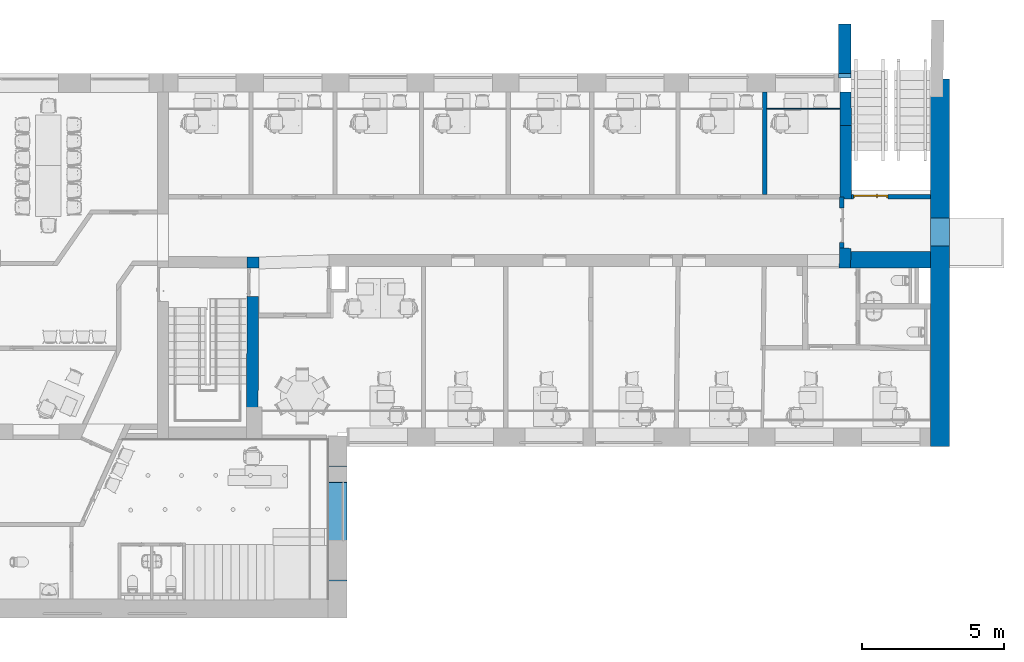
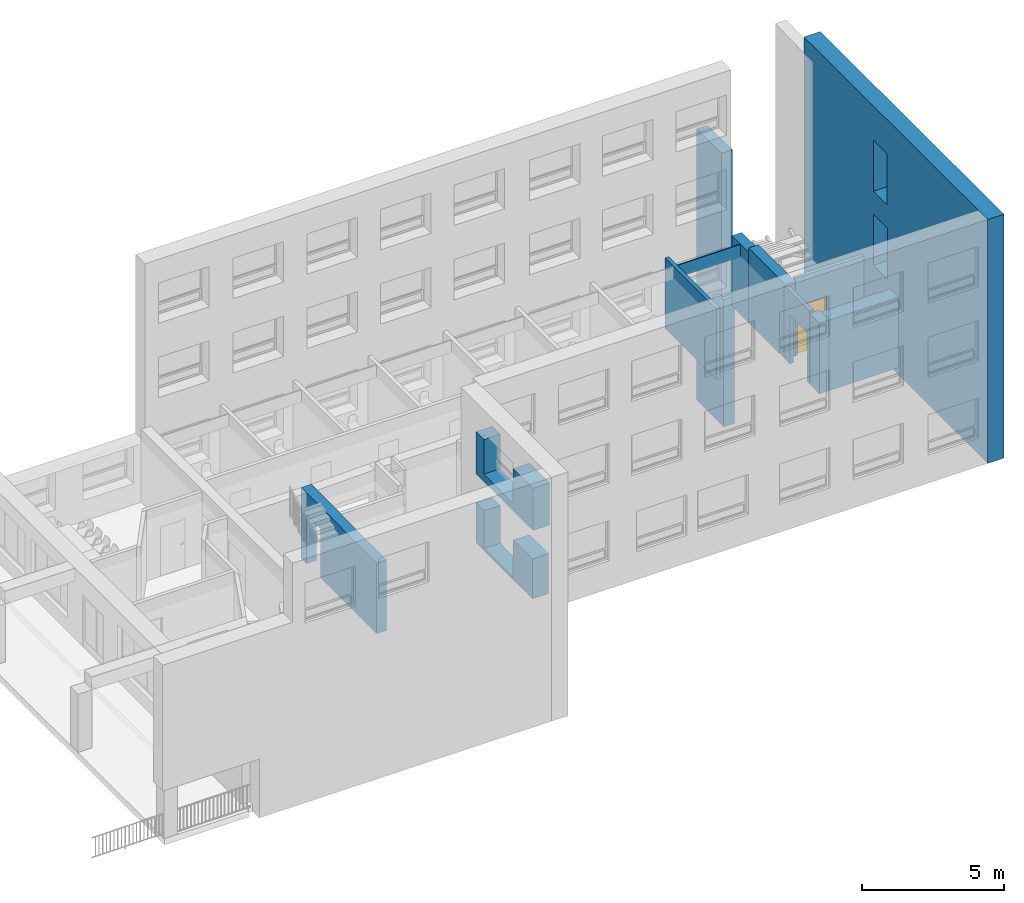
# One storey, part 12 of 25: 13 walls, 1 door, 6 openings.
"""IFC2X3 building model written with IfcOpenShell, lengths in millimetres."""

from ifc_helpers import new_model, entity, si_unit, converted_unit, derived_unit, direction, frame, frame_2d, origin, origin_2d_with_axis, place, context, subcontext, project, spatial, polyline, rectangle, outline, extrude, clip, bounded_halfspace, faceted_brep, source, transform, mapped, material, material_list, layer, layer_set, layer_usage, type_object, type_shapes, element, fill, save


model = new_model("IFC2X3")

# Units and contexts
model_context = context("Model", 3, precision=0.01, world=origin(), true_north=direction((6.12303176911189e-17, 1.0)))
context_of_model = context(None, 3, precision=0.01, world=origin(), true_north=direction((6.12303176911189e-17, 1.0)))
body_context = subcontext(model_context, "Body", "Model", "MODEL_VIEW")
ifc_project = project(units=[si_unit("LENGTHUNIT", "METRE", prefix="MILLI"), si_unit("AREAUNIT", "SQUARE_METRE"), si_unit("VOLUMEUNIT", "CUBIC_METRE"), converted_unit("PLANEANGLEUNIT", "DEGREE", entity("IfcRatioMeasure", 0.0174532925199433), si_unit("PLANEANGLEUNIT", "RADIAN"), dimensions=[0, 0, 0, 0, 0, 0, 0]), si_unit("MASSUNIT", "GRAM", prefix="KILO"), derived_unit("MASSDENSITYUNIT", [(si_unit("MASSUNIT", "GRAM", prefix="KILO"), 1), (si_unit("LENGTHUNIT", "METRE"), -3)]), si_unit("TIMEUNIT", "SECOND"), si_unit("FREQUENCYUNIT", "HERTZ"), si_unit("THERMODYNAMICTEMPERATUREUNIT", "DEGREE_CELSIUS"), derived_unit("THERMALTRANSMITTANCEUNIT", [(si_unit("MASSUNIT", "GRAM", prefix="KILO"), 1), (si_unit("THERMODYNAMICTEMPERATUREUNIT", "KELVIN"), -1), (si_unit("TIMEUNIT", "SECOND"), -3)]), derived_unit("VOLUMETRICFLOWRATEUNIT", [(si_unit("LENGTHUNIT", "METRE"), 3), (si_unit("TIMEUNIT", "SECOND"), -1)]), si_unit("ELECTRICCURRENTUNIT", "AMPERE"), si_unit("ELECTRICVOLTAGEUNIT", "VOLT"), si_unit("POWERUNIT", "WATT"), si_unit("FORCEUNIT", "NEWTON", prefix="KILO"), si_unit("ILLUMINANCEUNIT", "LUX"), si_unit("LUMINOUSFLUXUNIT", "LUMEN"), si_unit("LUMINOUSINTENSITYUNIT", "CANDELA"), derived_unit("USERDEFINED", [(si_unit("MASSUNIT", "GRAM", prefix="KILO"), -1), (si_unit("LENGTHUNIT", "METRE"), -2), (si_unit("TIMEUNIT", "SECOND"), 3), (si_unit("LUMINOUSFLUXUNIT", "LUMEN"), 1)]), derived_unit("LINEARVELOCITYUNIT", [(si_unit("LENGTHUNIT", "METRE"), 1), (si_unit("TIMEUNIT", "SECOND"), -1)]), si_unit("PRESSUREUNIT", "PASCAL"), derived_unit("USERDEFINED", [(si_unit("LENGTHUNIT", "METRE"), -2), (si_unit("MASSUNIT", "GRAM", prefix="KILO"), 1), (si_unit("TIMEUNIT", "SECOND"), -2)])], contexts=[model_context, context_of_model])

# Site, building, storey
site_placement = place(None, frame((121442.264707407, 135347.995453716, -1800.0)))
site = spatial("IfcSite", under=ifc_project, at=site_placement, Name="Surface", CompositionType="ELEMENT")
building_placement = place(site_placement, origin())
building = spatial("IfcBuilding", under=site, at=building_placement, CompositionType="ELEMENT")
storey_placement = place(building_placement, frame((0.0, 0.0, 1800.0)))
storey = spatial("IfcBuildingStorey", under=building, at=storey_placement, Name="1 korrus", CompositionType="ELEMENT", Elevation=1800.00000000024)

# Walls
ifc_material_1 = material(Name="__Betoonelement")
ifc_layer_1 = layer(ifc_material_1, 400.0)
ifc_layer_set_1 = layer_set([ifc_layer_1], Name="Basic Wall:40_Betoon")
ifc_layer_usage_1 = layer_usage(ifc_layer_set_1, "AXIS2", "NEGATIVE", 200.0)
wall_type_1 = type_object("IfcWallType", Name="Basic Wall:40_Betoon", PredefinedType="STANDARD", material=ifc_layer_set_1)
wall_1_placement = place(storey_placement, frame((-85515.1968335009, -115341.075780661, 0.0), z_axis=(0.0, 0.0, 1.0), x_axis=(0.00421665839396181, -0.999991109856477, 0.0)))
element("IfcWallStandardCase", 1, at=wall_1_placement, inside=storey, type_object=wall_type_1, material=ifc_layer_usage_1, Name="Basic Wall:40_Betoon", ObjectType="Basic Wall:40_Betoon", context=body_context, shape_type="SweptSolid", body=[
    extrude(outline(polyline([(-179.426045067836, -1817.21276640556), (220.599622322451, -1817.21276640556), (179.409931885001, 1818.63509030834), (-220.583509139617, 1815.79044250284), (-179.426045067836, -1817.21276640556)])), frame((1818.17271335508, 0.0, 0.0), z_axis=(0.0, 0.0, 1.0), x_axis=(0.0113280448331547, 0.999935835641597, 0.0)), (0.0, 0.0, 1.0), 3032.0),
])
ifc_layer_usage_2 = layer_usage(ifc_layer_set_1, "AXIS2", "POSITIVE", -200.0)
wall_2_placement = place(storey_placement, frame((-85539.9594272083, -121530.565417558, 0.0), z_axis=(0.0, 0.0, 1.0), x_axis=(0.0323274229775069, 0.999477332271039, 0.0)))
element("IfcWallStandardCase", 2, at=wall_2_placement, inside=storey, type_object=wall_type_1, material=ifc_layer_usage_2, Name="Basic Wall:40_Betoon", ObjectType="Basic Wall:40_Betoon", context=body_context, shape_type="Clipping", body=[
    clip(extrude(outline(polyline([(708.579685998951, -200.0), (708.579685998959, 200.0), (0.0, 200.0), (12.937731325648, -200.0), (603.246266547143, -200.0), (708.579685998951, -200.0)])), origin(), (0.0, 0.0, 1.0), 3032.0), bounded_halfspace(frame((12.9377313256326, -200.0, 3032.0), z_axis=(0.0, 0.0, -1.0), x_axis=(-0.999477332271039, -0.0323274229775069, 0.0)), True, frame((12.9377313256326, -200.0, 3032.0)), polyline([(0.0, 0.0), (695.641954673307, 0.0), (695.641954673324, 400.0), (-12.9377313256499, 400.0), (0.0, 0.0)]))),
])
ifc_layer_usage_3 = layer_usage(ifc_layer_set_1, "AXIS2", "NEGATIVE", 200.0)
wall_3_placement = place(storey_placement, frame((-85510.2749043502, -116508.323618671, 0.0), z_axis=(0.0, 0.0, 1.0), x_axis=(0.0, -1.0, 0.0)))
element("IfcWallStandardCase", 3, at=wall_3_placement, inside=storey, type_object=wall_type_1, material=ifc_layer_usage_3, Name="Basic Wall:40_Betoon", ObjectType="Basic Wall:40_Betoon", context=body_context, shape_type="SweptSolid", body=[
    extrude(rectangle(XDim=2586.44494586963, YDim=400.000000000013, at=frame_2d((1293.22247293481, 0.0), x_axis=(-1.0, 0.0))), origin(), (0.0, 0.0, 1.0), 3215.0),
])
ifc_material_2 = material(Name="NCS S 2570-R Syvä punainen, matta, ruisku")
ifc_material_list = material_list([ifc_material_2, ifc_material_1])
wall_type_2 = type_object("IfcWallType", Name="Basic Wall:44_Betoon", PredefinedType="NOTDEFINED")
wall_4_placement = place(storey_placement, frame((-85538.0641696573, -114839.161413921, -5460.57195566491), z_axis=(0.0, 0.0, 1.0), x_axis=(0.0, 1.0, 0.0)))
element("IfcWall", 4, at=wall_4_placement, inside=storey, type_object=wall_type_2, material=ifc_material_list, Name="Basic Wall:44_Betoon", ObjectType="Basic Wall:44_Betoon", context=body_context, shape_type="Brep", body=[
    faceted_brep([(0.0, -220.500000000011, 5460.57195566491), (0.0, -220.500000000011, 0.0), (1891.50825939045, -220.500000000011, 0.0), (1891.50825939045, -220.500000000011, 11640.6280282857), (157.24230158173, -220.500000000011, 11640.6280282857), (157.24230158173, -220.500000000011, 8492.57195566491), (157.24230158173, -220.500000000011, 5460.57195566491), (0.0, 220.499999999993, 0.0), (0.0, 220.499999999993, 5460.57195566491), (157.24230158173, 220.499999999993, 5460.57195566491), (157.24230158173, 220.499999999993, 11640.6280282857), (1896.23794541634, 220.499999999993, 11640.6280282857), (1896.23794541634, 220.499999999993, 2170.57195566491), (1896.23794541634, 220.499999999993, 0.0), (157.24230158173, -220.08965099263, 5460.57195566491), (157.24230158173, 205.913091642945, 5460.57195566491), (0.0, 205.913091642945, 5460.57195566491), (0.0, -184.086908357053, 5460.57195566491)], [[[0, 1, 2, 3, 4, 5, 6]], [[7, 8, 9, 10, 11, 12, 13]], [[2, 1, 7, 13]], [[4, 3, 11, 10]], [[2, 13, 12, 11, 3]], [[6, 14, 15, 9, 8, 16, 17, 0]], [[0, 17, 16, 8, 7, 1]], [[4, 10, 9, 15, 14, 6, 5]]]),
])
ifc_layer_2 = layer(ifc_material_1, 590.0)
ifc_layer_set_2 = layer_set([ifc_layer_2], Name="Basic Wall:59_Betoon 2")
ifc_layer_usage_4 = layer_usage(ifc_layer_set_2, "AXIS2", "POSITIVE", -295.0)
wall_type_3 = type_object("IfcWallType", Name="Basic Wall:59_Betoon 2", PredefinedType="STANDARD", material=ifc_layer_set_2)
wall_5_placement = place(storey_placement, frame((-82525.9803800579, -121229.099932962, 0.0), z_axis=(0.0, 0.0, 1.0), x_axis=(-1.0, 0.0, 0.0)))
element("IfcWallStandardCase", 5, at=wall_5_placement, inside=storey, type_object=wall_type_3, material=ifc_layer_usage_4, Name="Basic Wall:59_Betoon 2", ObjectType="Basic Wall:59_Betoon 2", context=body_context, shape_type="SweptSolid", body=[
    extrude(outline(polyline([(2794.58218347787, -295.0), (2813.6653371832, 295.0), (0.0, 295.0), (0.0, -295.0), (2794.58218347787, -295.0)])), origin(), (0.0, 0.0, 1.0), 3025.0),
])

# Wall, opening
ifc_layer_3 = layer(ifc_material_1, 410.0)
ifc_layer_set_3 = layer_set([ifc_layer_3], Name="Basic Wall:41_Betoon 2")
wall_type_4 = type_object("IfcWallType", Name="Basic Wall:41_Betoon 2", PredefinedType="STANDARD", material=ifc_layer_set_3)
wall_6_placement = place(storey_placement, frame((-106355.901559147, -126468.408114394, 0.0), z_axis=(0.0, 0.0, 1.0), x_axis=(0.00458720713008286, 0.999989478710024, 0.0)))
wall_6 = element("IfcWall", 6, at=wall_6_placement, inside=storey, type_object=wall_type_4, Name="Basic Wall:41_Betoon 2", ObjectType="Basic Wall:41_Betoon 2", context=body_context, shape_type="Brep", body=[
    faceted_brep([(0.0, -205.0, 3032.0), (0.0, -205.0, 0.0), (3954.58771050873, -205.0, 0.0), (3954.58771050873, -205.0, 2100.0), (4954.58771050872, -205.0, 2100.0), (4954.58771050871, -205.0, 0.0), (5336.07504407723, -205.0, 0.0), (5336.07504407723, -205.0, 3032.0), (0.0, 205.0, 3032.0), (4946.47448263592, 205.0, 3032.0), (5336.47466789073, 205.0, 3032.0), (5336.47466789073, 205.0, 0.0), (4954.58771050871, 205.0, 0.0), (4954.58771050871, 205.0, 2100.0), (3954.58771050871, 205.0, 2100.0), (3954.58771050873, 205.0, 0.0), (0.0, 205.0, 0.0), (0.0, 101.88665501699, 3032.0), (3863.98745761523, 50.0597495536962, 3032.0), (5336.30440070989, 30.3118513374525, 3032.0)], [[[0, 1, 2, 3, 4, 5, 6, 7]], [[8, 9, 10, 11, 12, 13, 14, 15, 16]], [[1, 16, 15, 2]], [[1, 0, 17, 8, 16]], [[10, 9, 8, 17, 18, 19]], [[6, 11, 10, 19, 7]], [[4, 13, 12, 5]], [[13, 4, 3, 14]], [[14, 3, 2, 15]], [[17, 0, 7, 19, 18]], [[11, 6, 5, 12]]]),
])
opening_1_placement = place(wall_6_placement, frame((3954.58771050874, -205.0, 0.0)))
element("IfcOpeningElement", 7, at=opening_1_placement, cuts=wall_6, Name="sma_D01:1000 x 2100mm SU-9 Tuletokke:1", ObjectType="Opening", context=body_context, shape_type="SweptSolid", body=[
    extrude(rectangle(XDim=2099.99999999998, YDim=1000.0, at=frame_2d((1049.99999999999, 500.0), x_axis=(1.0, 0.0))), frame((0.0, 0.0, 0.0), z_axis=(0.0, 1.0, 0.0), x_axis=(0.0, 0.0, 1.0)), (0.0, 0.0, 1.0), 410.0),
])

# Wall, openings
ifc_material_3 = material(Name="Plaster")
ifc_layer_4 = layer(ifc_material_3, 10.0)
ifc_material_4 = material(Name="Polystyrene")
ifc_layer_5 = layer(ifc_material_4, 150.0)
ifc_layer_6 = layer(ifc_material_1, 500.0)
ifc_layer_set_4 = layer_set([ifc_layer_4, ifc_layer_5, ifc_layer_6], Name="Basic Wall:Olemasolev Soojustatud Välissein")
ifc_layer_usage_5 = layer_usage(ifc_layer_set_4, "AXIS2", "NEGATIVE", 330.0)
wall_type_5 = type_object("IfcWallType", Name="Basic Wall:Olemasolev Soojustatud Välissein", PredefinedType="STANDARD", material=ifc_layer_set_4)
wall_7_placement = place(storey_placement, frame((-82195.9803800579, -114877.270311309, -304.96246786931), z_axis=(0.0, 0.0, 1.0), x_axis=(0.0, -1.0, 0.0)))
wall_7 = element("IfcWallStandardCase", 8, at=wall_7_placement, inside=storey, type_object=wall_type_5, material=ifc_layer_usage_5, Name="Basic Wall:Olemasolev Soojustatud Välissein", ObjectType="Basic Wall:Olemasolev Soojustatud Välissein", context=body_context, shape_type="SweptSolid", body=[
    extrude(rectangle(XDim=12918.710704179, YDim=659.999999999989, at=frame_2d((6459.35535208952, 4.83169060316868e-13), x_axis=(-1.0, 0.0))), origin(), (0.0, 0.0, 1.0), 10464.9624678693),
])
opening_2_placement = place(wall_7_placement, origin())
element("IfcOpeningElement", 9, at=opening_2_placement, cuts=wall_7, Name="Basic Wall:Olemasolev Soojustatud Välissein", ObjectType="Opening", context=body_context, shape_type="SweptSolid", body=[
    extrude(rectangle(XDim=2200.0, YDim=970.000000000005, at=frame_2d((0.0, 8.66862137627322e-12), x_axis=(1.0, 0.0))), frame((5363.01915756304, -330.0, 7904.96246786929), z_axis=(0.0, 1.0, 0.0), x_axis=(0.0, 0.0, -1.0)), (0.0, 0.0, 1.0), 659.999999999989),
])
opening_3_placement = place(wall_7_placement, origin())
element("IfcOpeningElement", 10, at=opening_3_placement, cuts=wall_7, Name="Basic Wall:Olemasolev Soojustatud Välissein", ObjectType="Opening", context=body_context, shape_type="SweptSolid", body=[
    extrude(rectangle(XDim=2200.0, YDim=999.116235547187, at=origin_2d_with_axis()), frame((5377.57727533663, -330.0, 4729.96246786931), z_axis=(0.0, 1.0, 0.0), x_axis=(0.0, 0.0, -1.0)), (0.0, 0.0, 1.0), 659.999999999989),
])
opening_4_placement = place(wall_7_placement, origin())
element("IfcOpeningElement", 11, at=opening_4_placement, cuts=wall_7, Name="Basic Wall:Olemasolev Soojustatud Välissein", ObjectType="Opening", context=body_context, shape_type="SweptSolid", body=[
    extrude(rectangle(XDim=2200.0, YDim=1000.00000000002, at=frame_2d((-2.27373675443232e-13, 1.73372427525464e-11), x_axis=(1.0, 0.0))), frame((5377.83051468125, -330.0, 1404.96246786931), z_axis=(0.0, 1.0, 0.0), x_axis=(0.0, 0.0, -1.0)), (0.0, 0.0, 1.0), 659.999999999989),
])

# Walls
wall_8_placement = place(storey_placement, frame((-103360.469884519, -128477.780928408, 4125.0), z_axis=(0.0, 0.0, 1.0), x_axis=(0.0, -1.0, 0.0)))
element("IfcWall", 12, at=wall_8_placement, inside=storey, type_object=wall_type_5, Name="Basic Wall:Olemasolev Soojustatud Välissein", ObjectType="Basic Wall:Olemasolev Soojustatud Välissein", context=body_context, shape_type="Brep", body=[
    faceted_brep([(2628.20008707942, -330.0, 100.0), (578.200087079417, -330.0, 100.0), (578.200087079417, -330.0, 1710.0), (0.0, -330.0, 1710.0), (0.0, -330.0, 0.0), (3980.0, -330.0, 0.0), (3980.0, -330.0, 1710.0), (2628.20008707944, -330.0, 1710.0), (578.200087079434, 330.0, 100.0), (2628.20008707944, 330.0, 100.0), (2628.20008707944, 330.0, 1710.0), (3980.0, 330.0, 1710.0), (3980.0, 330.0, 0.0), (0.0, 330.0, 0.0), (0.0, 330.0, 1710.0), (578.200087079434, 330.0, 1710.0)], [[[0, 1, 2, 3, 4, 5, 6, 7]], [[8, 9, 10, 11, 12, 13, 14, 15]], [[13, 4, 3, 14]], [[14, 3, 2, 15]], [[11, 6, 5, 12]], [[4, 13, 12, 5]], [[1, 8, 15, 2]], [[9, 0, 7, 10]], [[1, 0, 9, 8]], [[6, 11, 10, 7]]]),
])
ifc_layer_7 = layer(ifc_material_3, 10.0)
ifc_material_5 = material(Name="EST. Müüritis. Väikeplokk. Kergkruusplokk")
ifc_layer_8 = layer(ifc_material_5, 130.0)
ifc_layer_9 = layer(ifc_material_3, 10.0)
ifc_layer_set_5 = layer_set([ifc_layer_7, ifc_layer_8, ifc_layer_9], Name="Basic Wall:15_FIBO")
ifc_layer_usage_6 = layer_usage(ifc_layer_set_5, "AXIS2", "POSITIVE", -75.0)
wall_type_6 = type_object("IfcWallType", Name="Basic Wall:15_FIBO", PredefinedType="STANDARD", material=ifc_layer_set_5)
wall_9_placement = place(storey_placement, frame((-88353.9992997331, -118944.76856454, 0.0), z_axis=(0.0, 0.0, 1.0), x_axis=(0.0, 1.0, 0.0)))
element("IfcWallStandardCase", 13, at=wall_9_placement, inside=storey, type_object=wall_type_6, material=ifc_layer_usage_6, Name="Basic Wall:15_FIBO", ObjectType="Basic Wall:15_FIBO", context=body_context, shape_type="Clipping", body=[
    clip(extrude(rectangle(XDim=3602.84945220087, YDim=150.000000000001, at=frame_2d((1801.42472610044, 0.0), x_axis=(-1.0, 0.0))), origin(), (0.0, 0.0, 1.0), 3032.0), bounded_halfspace(frame((0.0, -75.0, 3032.0), z_axis=(0.0, 0.0, -1.0), x_axis=(-1.0, 0.0, 0.0)), True, frame((0.0, -75.0, 3032.0)), polyline([(0.0, 0.0), (3602.84945220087, 0.0), (3602.84945220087, 150.0), (0.0, 150.0), (0.0, 0.0)]))),
])

# Wall, opening
ifc_layer_usage_7 = layer_usage(ifc_layer_set_5, "AXIS2", "NEGATIVE", 75.0)
wall_10_placement = place(storey_placement, frame((-85642.9141673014, -120816.168963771, 0.0), z_axis=(0.0, 0.0, 1.0), x_axis=(0.0, 1.0, 0.0)))
wall_10 = element("IfcWallStandardCase", 14, at=wall_10_placement, inside=storey, type_object=wall_type_6, material=ifc_layer_usage_7, Name="Basic Wall:15_FIBO", ObjectType="Basic Wall:15_FIBO", context=body_context, shape_type="SweptSolid", body=[
    extrude(rectangle(XDim=1796.40039923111, YDim=150.000000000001, at=frame_2d((898.200199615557, 0.0), x_axis=(-1.0, 0.0))), origin(), (0.0, 0.0, 1.0), 3125.0),
])
opening_5_placement = place(wall_10_placement, frame((1400.0, 75.0, 0.0)))
element("IfcOpeningElement", 15, at=opening_5_placement, cuts=wall_10, Name="sma_D02:1200 x 2100mm SU-7 Liigendiga siseuks:1", ObjectType="Opening", context=body_context, shape_type="SweptSolid", body=[
    extrude(rectangle(XDim=2099.99999999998, YDim=1200.0, at=frame_2d((1049.99999999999, 600.0), x_axis=(1.0, 0.0))), frame((0.0, 0.0, 0.0), z_axis=(0.0, -1.0, 0.0), x_axis=(0.0, 0.0, 1.0)), (0.0, 0.0, 1.0), 150.0),
])

# Wall, opening, door
ifc_layer_usage_8 = layer_usage(ifc_layer_set_5, "AXIS2", "POSITIVE", -75.0)
wall_11_placement = place(storey_placement, frame((-85567.9141673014, -119019.76856454, 0.0)))
wall_11 = element("IfcWallStandardCase", 16, at=wall_11_placement, inside=storey, type_object=wall_type_6, material=ifc_layer_usage_8, Name="Basic Wall:15_FIBO", ObjectType="Basic Wall:15_FIBO", context=body_context, shape_type="SweptSolid", body=[
    extrude(rectangle(XDim=2784.29452429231, YDim=150.000000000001, at=frame_2d((1649.78652509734, 1.61293201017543e-12), x_axis=(1.0, 0.0))), origin(), (0.0, 0.0, 1.0), 3325.0),
])
opening_6_placement = place(wall_11_placement, frame((337.639262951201, -75.0, 0.0)))
opening_6 = element("IfcOpeningElement", 17, at=opening_6_placement, cuts=wall_11, Name="sma_D02:1200 x 2100mm SU-11 Tuletokke:1", ObjectType="Opening", context=body_context, shape_type="SweptSolid", body=[
    extrude(rectangle(XDim=2099.99999999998, YDim=1200.0, at=frame_2d((1049.99999999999, 600.000000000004), x_axis=(1.0, 0.0))), frame((0.0, 0.0, 0.0), z_axis=(0.0, 1.0, 0.0), x_axis=(0.0, 0.0, 1.0)), (0.0, 0.0, 1.0), 150.0),
])
ifc_material_6 = material(Name="Metal - Aluminium")
door_style = type_object("IfcDoorStyle", Name="1200 x 2100mm SU-11 Tuletokke", ConstructionType="NOTDEFINED", OperationType="NOTDEFINED", ParameterTakesPrecedence=False, Sizeable=False, material=ifc_material_6)
shared_shape = source(origin(), body_context, "Body", "Brep", [
    faceted_brep([(745.260051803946, 40.0, 1100.0), (650.260051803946, 40.0, 1100.0), (650.260051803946, 35.0, 1100.0), (770.260051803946, 35.0, 1100.0), (770.260051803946, 78.0, 1100.0), (745.260051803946, 78.0, 1100.0), (745.260051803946, 40.0, 1075.0), (745.260051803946, 78.0, 1075.0), (770.260051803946, 78.0, 1075.0), (770.260051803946, 35.0, 1075.0), (650.260051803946, 35.0, 1075.0), (650.260051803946, 40.0, 1075.0)], [[[0, 1, 2, 3, 4, 5]], [[6, 7, 8, 9, 10, 11]], [[5, 7, 6, 0]], [[4, 8, 7, 5]], [[3, 9, 8, 4]], [[2, 10, 9, 3]], [[1, 11, 10, 2]], [[0, 6, 11, 1]]]),
    faceted_brep([(732.760051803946, 78.0, 1125.0), (782.760051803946, 78.0, 1125.0), (782.760051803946, 80.0, 1125.0), (732.760051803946, 80.0, 1125.0), (732.760051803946, 78.0, 1005.0), (732.760051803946, 80.0, 1005.0), (782.760051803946, 80.0, 1005.0), (782.760051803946, 78.0, 1005.0)], [[[0, 1, 2, 3]], [[4, 5, 6, 7]], [[3, 5, 4, 0]], [[2, 6, 5, 3]], [[1, 7, 6, 2]], [[0, 4, 7, 1]]]),
    faceted_brep([(745.260051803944, 170.432966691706, 1100.0), (745.260051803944, 132.432966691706, 1100.0), (770.260051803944, 132.432966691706, 1100.0), (770.260051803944, 175.432966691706, 1100.0), (650.260051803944, 175.432966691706, 1100.0), (650.260051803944, 170.432966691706, 1100.0), (745.260051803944, 170.432966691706, 1075.0), (650.260051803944, 170.432966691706, 1075.0), (650.260051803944, 175.432966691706, 1075.0), (770.260051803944, 175.432966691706, 1075.0), (770.260051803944, 132.432966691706, 1075.0), (745.260051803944, 132.432966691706, 1075.0)], [[[0, 1, 2, 3, 4, 5]], [[6, 7, 8, 9, 10, 11]], [[1, 0, 6, 11]], [[2, 1, 11, 10]], [[3, 2, 10, 9]], [[4, 3, 9, 8]], [[5, 4, 8, 7]], [[0, 5, 7, 6]]]),
    faceted_brep([(732.760051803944, 132.432966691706, 1125.0), (732.760051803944, 130.432966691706, 1125.0), (782.760051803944, 130.432966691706, 1125.0), (782.760051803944, 132.432966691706, 1125.0), (732.760051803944, 132.432966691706, 1005.0), (782.760051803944, 132.432966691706, 1005.0), (782.760051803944, 130.432966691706, 1005.0), (732.760051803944, 130.432966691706, 1005.0)], [[[0, 1, 2, 3]], [[4, 5, 6, 7]], [[1, 0, 4, 7]], [[2, 1, 7, 6]], [[3, 2, 6, 5]], [[0, 3, 5, 4]]]),
    faceted_brep([(-67.2399481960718, 40.4329666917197, 0.0), (-67.2399481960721, 130.43296669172, 0.0), (-42.2399481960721, 130.43296669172, 0.0), (-42.239948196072, 80.4329666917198, 0.0), (-27.2399481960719, 80.4329666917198, 0.0), (-27.2399481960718, 40.4329666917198, 0.0), (-27.2399481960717, 40.4329666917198, 2060.0), (1092.76005180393, 40.4329666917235, 2060.0), (1092.76005180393, 40.4329666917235, 0.0), (1132.76005180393, 40.4329666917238, 0.0), (1132.76005180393, 40.4329666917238, 2100.0), (-67.2399481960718, 40.4329666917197, 2100.0), (-27.2399481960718, 80.4329666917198, 2060.0), (-42.2399481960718, 80.4329666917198, 2075.0), (1107.76005180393, 80.4329666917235, 2075.0), (1107.76005180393, 80.4329666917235, 0.0), (1092.76005180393, 80.4329666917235, 0.0), (1092.76005180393, 80.4329666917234, 2060.0), (-42.239948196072, 130.43296669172, 2075.0), (-67.2399481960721, 130.43296669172, 2100.0), (1132.76005180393, 130.432966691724, 2100.0), (1132.76005180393, 130.432966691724, 0.0), (1107.76005180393, 130.432966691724, 0.0), (1107.76005180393, 130.432966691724, 2075.0)], [[[0, 1, 2, 3, 4, 5]], [[5, 6, 7, 8, 9, 10, 11, 0]], [[4, 12, 6, 5]], [[3, 13, 14, 15, 16, 17, 12, 4]], [[2, 18, 13, 3]], [[1, 19, 20, 21, 22, 23, 18, 2]], [[0, 11, 19, 1]], [[10, 9, 21, 20]], [[9, 8, 16, 15, 22, 21]], [[17, 16, 8, 7]], [[23, 22, 15, 14]], [[12, 17, 7, 6]], [[18, 23, 14, 13]], [[11, 10, 20, 19]]]),
    faceted_brep([(1107.76005180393, 80.4329666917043, 20.0), (1107.76005180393, 80.4329666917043, 2075.0), (832.760051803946, 80.4329666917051, 2075.0), (832.760051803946, 80.4329666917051, 20.0), (1107.76005180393, 130.432966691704, 20.0), (832.760051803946, 130.432966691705, 20.0), (832.760051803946, 130.432966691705, 2075.0), (1107.76005180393, 130.432966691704, 2075.0)], [[[0, 1, 2, 3]], [[4, 5, 6, 7]], [[3, 5, 4, 0]], [[2, 6, 5, 3]], [[1, 7, 6, 2]], [[0, 4, 7, 1]]]),
    faceted_brep([(832.760051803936, 80.4329666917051, 2075.0), (-42.2399481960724, 80.4329666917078, 2075.0), (-42.2399481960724, 80.4329666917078, 20.0), (832.760051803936, 80.4329666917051, 20.0), (832.760051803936, 130.432966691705, 2075.0), (832.760051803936, 130.432966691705, 20.0), (-42.2399481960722, 130.432966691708, 20.0), (-42.2399481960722, 130.432966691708, 2075.0)], [[[0, 1, 2, 3]], [[4, 5, 6, 7]], [[3, 5, 4, 0]], [[2, 6, 5, 3]], [[1, 7, 6, 2]], [[0, 4, 7, 1]]]),
])
type_shapes(door_style, [shared_shape])
door_placement = place(opening_6_placement, frame((67.2399481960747, 0.0, 0.0)))
door = element("IfcDoor", 18, at=door_placement, inside=storey, type_object=door_style, material=ifc_material_6, Name="sma_D02:1200 x 2100mm SU-11 Tuletokke", ObjectType="1200 x 2100mm SU-11 Tuletokke", OverallHeight=2099.99999999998, OverallWidth=1200.0, context=body_context, shape_type="MappedRepresentation", body=[
    mapped(shared_shape, transform((0.0, 0.0, 0.0), scale=1.0)),
])
fill(opening_6, door)

# Walls
ifc_layer_10 = layer(ifc_material_3, 10.0)
ifc_material_7 = material(Name="EST. Soojustus. Kivivill. Default")
ifc_layer_11 = layer(ifc_material_7, 200.0)
ifc_layer_12 = layer(ifc_material_5, 450.0)
ifc_layer_13 = layer(ifc_material_3, 10.0)
ifc_layer_set_6 = layer_set([ifc_layer_10, ifc_layer_11, ifc_layer_12, ifc_layer_13], Name="Basic Wall:Uus Välissein +  Soojustus")
wall_type_7 = type_object("IfcWallType", Name="Basic Wall:Uus Välissein +  Soojustus", PredefinedType="STANDARD", material=ifc_layer_set_6)
wall_12_placement = place(storey_placement, frame((-103360.469884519, -128491.968493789, 7090.0), z_axis=(0.0, 0.0, 1.0), x_axis=(0.0, -1.0, 0.0)))
element("IfcWall", 19, at=wall_12_placement, inside=storey, type_object=wall_type_7, Name="Basic Wall:Uus Välissein +  Soojustus", ObjectType="Basic Wall:Uus Välissein +  Soojustus", context=body_context, shape_type="Brep", body=[
    faceted_brep([(2614.01252169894, -335.0, 325.0), (564.012521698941, -335.0, 325.0), (564.012521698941, -335.0, 1810.0), (0.0, -335.0, 1810.0), (0.0, -335.0, 0.0), (4020.0, -335.0, 0.0), (4020.0, -335.0, 1810.0), (2614.01252169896, -335.0, 1810.0), (564.012521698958, 335.0, 325.0), (2614.01252169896, 335.0, 325.0), (2614.01252169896, 335.0, 1810.0), (4020.0, 335.0, 1810.0), (4020.0, 335.0, 0.0), (0.0, 335.0, 0.0), (0.0, 335.0, 1810.0), (564.012521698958, 335.0, 1810.0), (0.0, 330.0, 0.0), (0.0, -330.0, 0.0), (0.0, -330.0, 1810.0), (0.0, 330.0, 1810.0), (564.012521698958, -330.0, 1810.0), (564.012521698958, 330.0, 1810.0), (4020.0, 330.0, 1810.0), (4020.0, -330.0, 1810.0), (4020.0, -330.0, 0.0), (4020.0, 330.0, 0.0), (2614.01252169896, -330.0, 1810.0), (2614.01252169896, 330.0, 1810.0)], [[[0, 1, 2, 3, 4, 5, 6, 7]], [[8, 9, 10, 11, 12, 13, 14, 15]], [[13, 16, 17, 4, 3, 18, 19, 14]], [[14, 19, 18, 3, 2, 20, 21, 15]], [[11, 22, 23, 6, 5, 24, 25, 12]], [[4, 17, 16, 13, 12, 25, 24, 5]], [[1, 8, 15, 21, 20, 2]], [[9, 0, 7, 26, 27, 10]], [[1, 0, 9, 8]], [[6, 23, 22, 11, 10, 27, 26, 7]]]),
])
ifc_material_8 = material(Name="Metal - Stud Layer")
ifc_layer_14 = layer(ifc_material_8, 30.0)
ifc_material_9 = material(Name="Gypsum Wall Board")
ifc_layer_15 = layer(ifc_material_9, 13.0)
ifc_layer_set_7 = layer_set([ifc_layer_14, ifc_layer_15], Name="Basic Wall:Kipssirm 1 kordne")
ifc_layer_usage_9 = layer_usage(ifc_layer_set_7, "AXIS2", "POSITIVE", -21.5)
wall_type_8 = type_object("IfcWallType", Name="Basic Wall:Kipssirm 1 kordne", PredefinedType="STANDARD", material=ifc_layer_set_7)
wall_13_placement = place(storey_placement, frame((-88278.9992997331, -115928.952432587, 2500.0)))
element("IfcWallStandardCase", 20, at=wall_13_placement, inside=storey, type_object=wall_type_8, material=ifc_layer_usage_9, Name="Basic Wall:Kipssirm 1 kordne", ObjectType="Basic Wall:Kipssirm 1 kordne", context=body_context, shape_type="SweptSolid", body=[
    extrude(outline(polyline([(2566.37024420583, -21.5000000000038), (2566.18892628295, 21.5000000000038), (0.0, 21.5000000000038), (0.0, -21.5000000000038), (2566.37024420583, -21.5000000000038)])), origin(), (0.0, 0.0, 1.0), 525.0),
])

save(model, "model.ifc")
